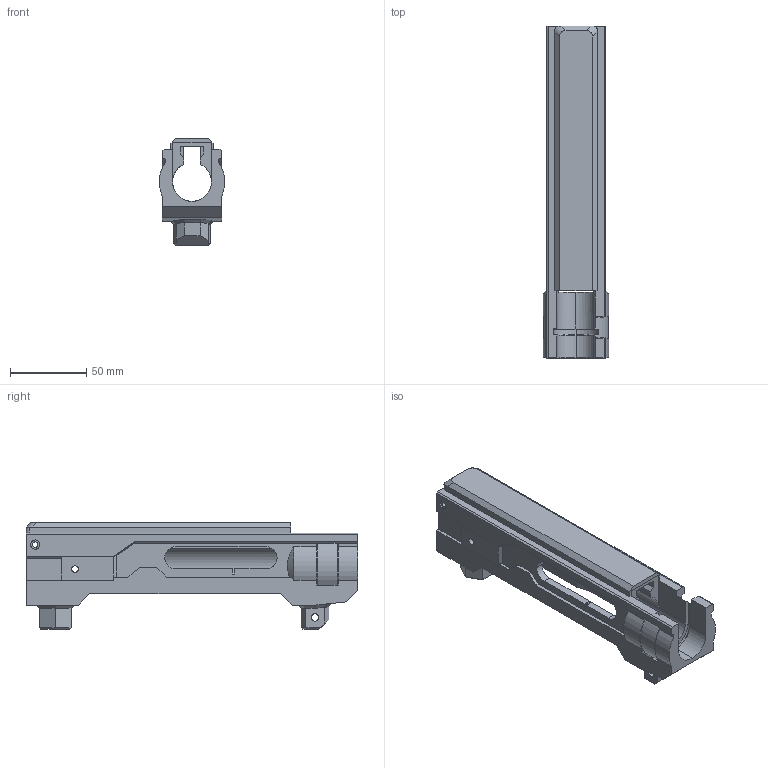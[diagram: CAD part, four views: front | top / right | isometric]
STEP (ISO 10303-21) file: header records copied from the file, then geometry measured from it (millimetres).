
FILE_DESCRIPTION(('HOOPS Exchange Step'),'2;1');
FILE_NAME('/private/var/mobile/Containers/Data/Application/3D331496-78D7-4D8A-96EF-C26D196FB948/tmp/export/temp_export','2026-09-20T20:25:52+19:00',('mobile'),('Shapr3D Limited'),'HOOPS Exchange 2026.3','Shapr3D','Authorized');
FILE_SCHEMA( ('AP242_MANAGED_MODEL_BASED_3D_ENGINEERING_MIM_LF {1 0 10303 442 1 1 4}') );
Length unit declared in the file: millimetre
Products named in the file (3): Upper receiver; Upper.step; root
Assembly tree (2 placements, depth 3):
  root
    Upper.step
      Upper receiver
Bounding box: 43 x 217.03 x 69.95 mm (x, y, z)
Volume: 202862.9 mm3; surface area: 63568.8 mm2
Topology: 1 solids, 1 shells, 239 faces, 664 edges, 426 vertices
Faces by surface type: plane 165, cylinder 47, torus 14, bspline 10, cone 3
Full cylindrical faces by diameter (mm): 3.5 x2, 4.3 x2, 4.5 x2, 4.85 x1, 6 x2, 6.7 x2, 9.6 x1
Entity records: 8698 total; most frequent: CARTESIAN_POINT 2552, ORIENTED_EDGE 1328, DIRECTION 1184, EDGE_CURVE 664, VECTOR 480, LINE 480, VERTEX_POINT 426, AXIS2_PLACEMENT_3D 352
